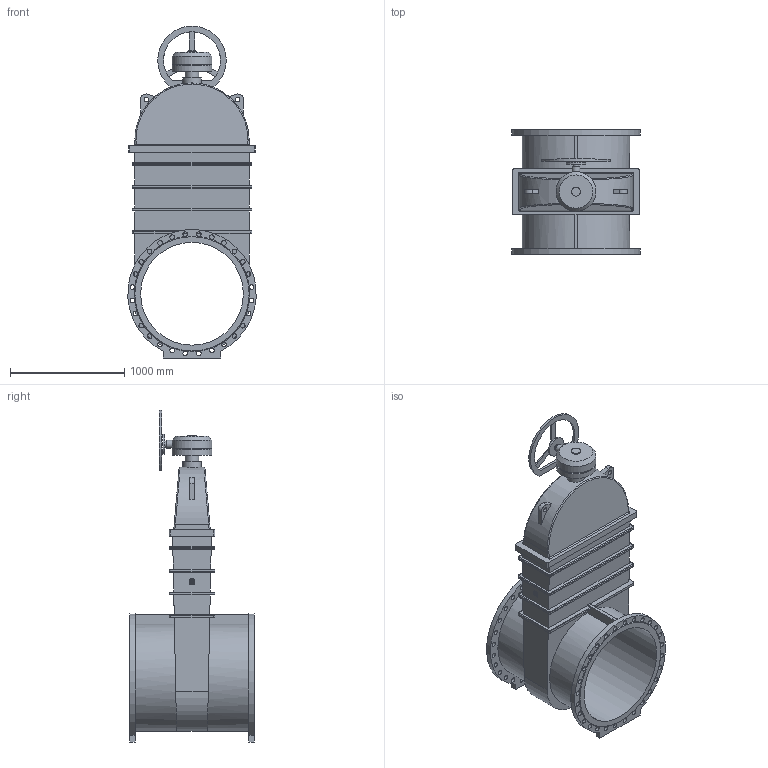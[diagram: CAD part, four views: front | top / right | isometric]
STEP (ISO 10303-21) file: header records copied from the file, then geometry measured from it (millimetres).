
FILE_DESCRIPTION(('STEP AP203'), '1');
FILE_NAME('Çàäâèæêà 47GV DN900 PN10_PN16_L1100 + ðåäóêòîð ñ ìàõîâèêîì', '', ('UNSPECIFIED'), ('UNSPECIFIED'), 'ASCON STEP Converter 1.6', 'ASCON Math Kernel', '');
FILE_SCHEMA(('CONFIG_CONTROL_DESIGN'));
Length unit declared in the file: millimetre
Bounding box: 1122.05 x 1100 x 2907.5 mm (x, y, z)
Volume: 576370657 mm3; surface area: 13648895.2 mm2
Topology: 1 solids, 1 shells, 301 faces, 921 edges, 591 vertices
Faces by surface type: cylinder 144, plane 120, bspline 34, cone 3
Full cylindrical faces by diameter (mm): 30 x1, 40 x2, 41 x56, 50 x1, 70 x1, 80 x1, 100 x1, 120 x1, 160 x1, 175 x1, 330 x1, 350 x2, 900 x1
Entity records: 18815 total; most frequent: CARTESIAN_POINT 8335, ORIENTED_EDGE 1698, DIRECTION 1618, EDGE_CURVE 849, AXIS2_PLACEMENT_3D 644, VERTEX_POINT 591, EDGE_LOOP 466, FACE_BOUND 383
